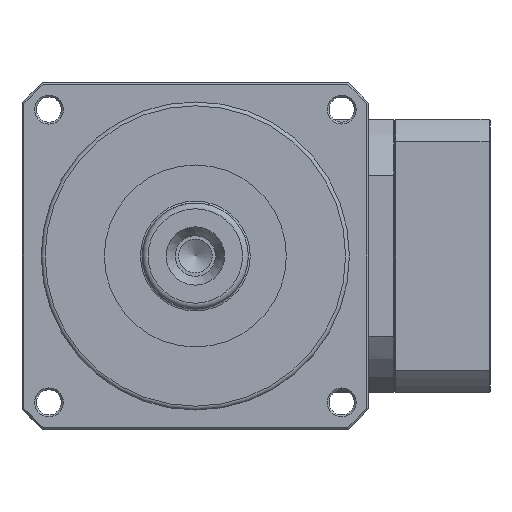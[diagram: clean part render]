
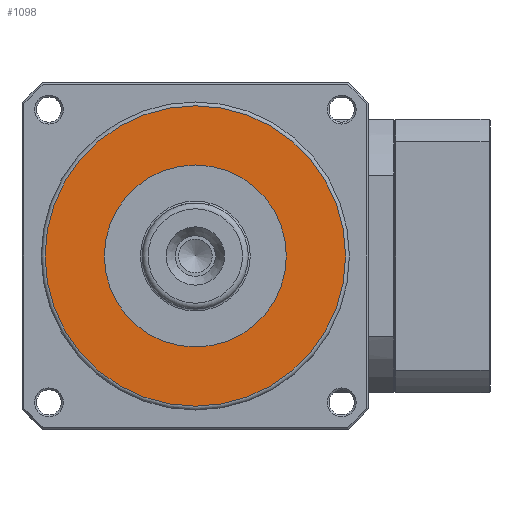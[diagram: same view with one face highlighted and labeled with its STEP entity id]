
A CAD part, left-side view. The second image highlights one B-rep face of the part: STEP entity #1098.
In plain terms, the highlighted planar face has unit normal (-1, 0, 0).
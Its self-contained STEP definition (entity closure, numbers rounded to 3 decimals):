
#211=FACE_BOUND('',#2191,.T.);
#212=FACE_BOUND('',#2192,.T.);
#774=PLANE('',#8393);
#1098=ADVANCED_FACE('',(#211,#212),#774,.T.);
#2191=EDGE_LOOP('',(#4527));
#2192=EDGE_LOOP('',(#4528));
#4527=ORIENTED_EDGE('',*,*,#7020,.F.);
#4528=ORIENTED_EDGE('',*,*,#7021,.T.);
#6137=VERTEX_POINT('',#12502);
#6138=VERTEX_POINT('',#12504);
#7020=EDGE_CURVE('',#6137,#6137,#7785,.T.);
#7021=EDGE_CURVE('',#6138,#6138,#7786,.T.);
#7785=CIRCLE('',#8391,47.25);
#7786=CIRCLE('',#8392,78.);
#8391=AXIS2_PLACEMENT_3D('',#12501,#9984,#9985);
#8392=AXIS2_PLACEMENT_3D('',#12503,#9986,#9987);
#8393=AXIS2_PLACEMENT_3D('',#12505,#9988,#9989);
#9984=DIRECTION('',(-1.,0.,0.));
#9985=DIRECTION('',(0.,0.,1.));
#9986=DIRECTION('',(-1.,0.,0.));
#9987=DIRECTION('',(0.,0.,1.));
#9988=DIRECTION('',(-1.,0.,0.));
#9989=DIRECTION('',(0.,0.,-1.));
#12501=CARTESIAN_POINT('',(-211.013,19.097,0.));
#12502=CARTESIAN_POINT('',(-211.013,19.097,47.25));
#12503=CARTESIAN_POINT('',(-211.013,19.097,0.));
#12504=CARTESIAN_POINT('',(-211.013,19.097,78.));
#12505=CARTESIAN_POINT('',(-211.013,19.097,0.));
